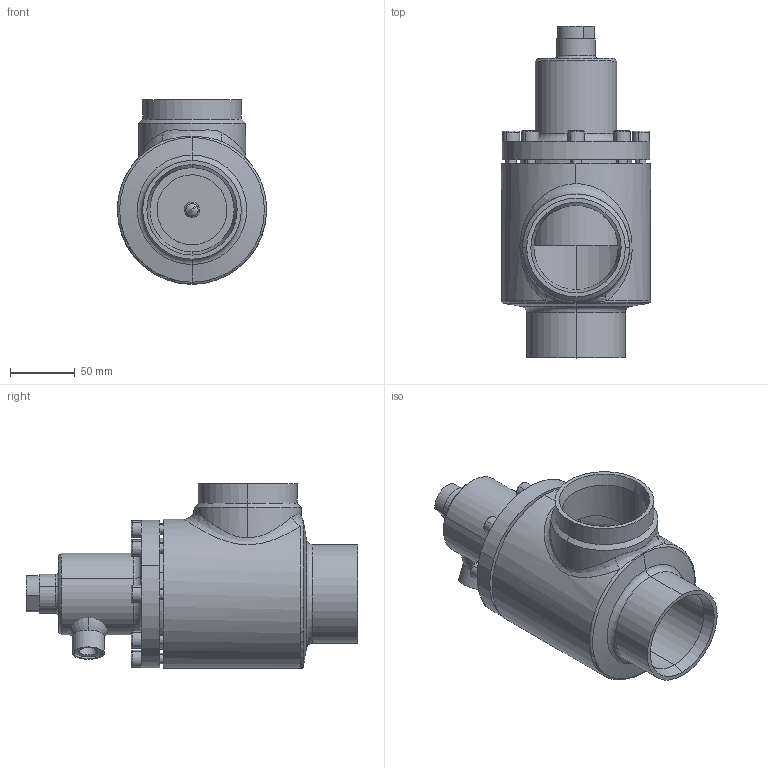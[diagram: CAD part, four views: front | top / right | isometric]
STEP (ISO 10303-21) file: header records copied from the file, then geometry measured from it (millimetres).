
FILE_DESCRIPTION (( 'STEP AP214' ), '1' );
FILE_NAME ('RVD4280xC17-DN65_1-4bar.STEP', '2007-01-10T14:57:35', ( 'Herr Grams' ), ( 'AWP GmbH' ), 'SwSTEP 2.0', 'SolidWorks 2002296', '' );
FILE_SCHEMA (( 'AUTOMOTIVE_DESIGN' ));
Length unit declared in the file: millimetre
Products named in the file (9): RVD4280xC17-DN65_1-4bar; Gehäuse16400-DN065_Standard; Verschlußschr4270xE17-DN65_1-9bar_M12x  89_3bar; RVD42700B17_Deck+Schr-DN65_1-4bar_Standard; Deck-kpl42700E17-DN65_1-4bar_Standard; Deckel42700B17-DN65_1-4bar_PS40_Standard; Schw-Rd25_DN65_Standard; Gew-Muffe441_M16x1,5_Standard; Zylinderschraube-DIN912_M 8x 25
Assembly tree (15 placements, depth 4):
  RVD4280xC17-DN65_1-4bar
    RVD42700B17_Deck+Schr-DN65_1-4bar_Standard
      Zylinderschraube-DIN912_M 8x 25  x8
      Deck-kpl42700E17-DN65_1-4bar_Standard
        Schw-Rd25_DN65_Standard
        Deckel42700B17-DN65_1-4bar_PS40_Standard
        Gew-Muffe441_M16x1,5_Standard
    Verschlußschr4270xE17-DN65_1-9bar_M12x  89_3bar
    Gehäuse16400-DN065_Standard
Bounding box: 115 x 256 x 142.5 mm (x, y, z)
Volume: 726482.7 mm3; surface area: 217960 mm2
Topology: 13 solids, 13 shells, 276 faces, 602 edges, 377 vertices
Faces by surface type: plane 104, cylinder 103, cone 41, torus 26, bspline 2
Entity records: 15386 total; most frequent: CARTESIAN_POINT 11379, DIRECTION 829, ORIENTED_EDGE 668, AXIS2_PLACEMENT_3D 352, EDGE_CURVE 334, VERTEX_POINT 209, EDGE_LOOP 191, CIRCLE 184
